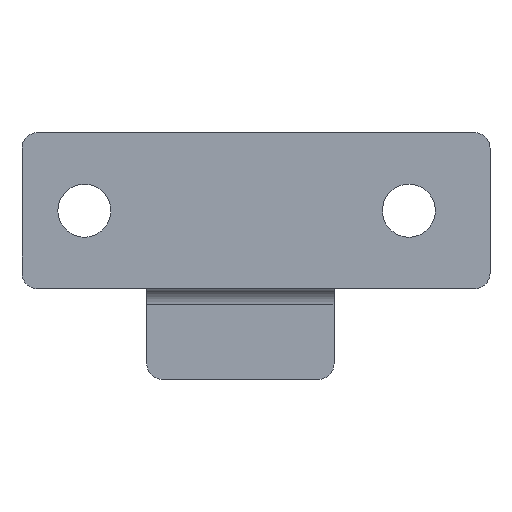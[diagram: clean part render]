
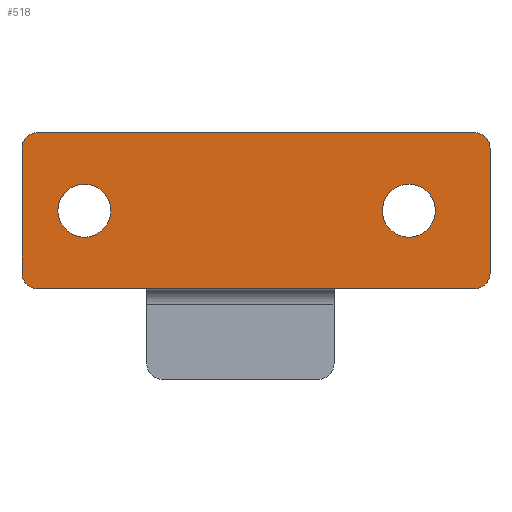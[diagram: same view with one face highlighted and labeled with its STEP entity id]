
A CAD part, top view. The second image highlights one B-rep face of the part: STEP entity #518.
In plain terms, the highlighted planar face has unit normal (0, 0, 1).
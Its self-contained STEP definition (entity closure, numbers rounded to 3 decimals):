
#122=DIRECTION('',(1.,0.,0.));
#123=VECTOR('',#122,28.);
#124=CARTESIAN_POINT('',(-29.,-50.,4.));
#125=LINE('',#124,#123);
#134=DIRECTION('',(0.,-1.,0.));
#135=VECTOR('',#134,8.);
#136=CARTESIAN_POINT('',(-30.,-41.,4.));
#137=LINE('',#136,#135);
#146=CARTESIAN_POINT('',(-29.,-41.,4.));
#147=DIRECTION('',(0.,0.,-1.));
#148=DIRECTION('',(-1.,0.,0.));
#149=AXIS2_PLACEMENT_3D('',#146,#147,#148);
#151=CARTESIAN_POINT('',(-1.,-41.,4.));
#152=DIRECTION('',(0.,0.,-1.));
#153=DIRECTION('',(0.,1.,0.));
#154=AXIS2_PLACEMENT_3D('',#151,#152,#153);
#156=CARTESIAN_POINT('',(-1.,-49.,4.));
#157=DIRECTION('',(0.,0.,-1.));
#158=DIRECTION('',(1.,0.,0.));
#159=AXIS2_PLACEMENT_3D('',#156,#157,#158);
#161=CARTESIAN_POINT('',(-29.,-49.,4.));
#162=DIRECTION('',(0.,0.,-1.));
#163=DIRECTION('',(0.,-1.,0.));
#164=AXIS2_PLACEMENT_3D('',#161,#162,#163);
#166=CARTESIAN_POINT('',(-26.,-45.,4.));
#167=DIRECTION('',(0.,0.,1.));
#168=DIRECTION('',(0.,1.,0.));
#169=AXIS2_PLACEMENT_3D('',#166,#167,#168);
#171=CARTESIAN_POINT('',(-26.,-45.,4.));
#172=DIRECTION('',(0.,0.,1.));
#173=DIRECTION('',(0.,-1.,0.));
#174=AXIS2_PLACEMENT_3D('',#171,#172,#173);
#176=CARTESIAN_POINT('',(-5.2,-45.,4.));
#177=DIRECTION('',(0.,0.,1.));
#178=DIRECTION('',(0.,1.,0.));
#179=AXIS2_PLACEMENT_3D('',#176,#177,#178);
#181=CARTESIAN_POINT('',(-5.2,-45.,4.));
#182=DIRECTION('',(0.,0.,1.));
#183=DIRECTION('',(0.,-1.,0.));
#184=AXIS2_PLACEMENT_3D('',#181,#182,#183);
#186=DIRECTION('',(-1.,0.,0.));
#187=VECTOR('',#186,28.);
#188=CARTESIAN_POINT('',(-1.,-40.,4.));
#189=LINE('',#188,#187);
#198=DIRECTION('',(0.,1.,0.));
#199=VECTOR('',#198,8.);
#200=CARTESIAN_POINT('',(0.,-49.,4.));
#201=LINE('',#200,#199);
#287=CARTESIAN_POINT('',(-5.2,-46.7,4.));
#288=VERTEX_POINT('',#287);
#289=CARTESIAN_POINT('',(-5.2,-43.3,4.));
#290=VERTEX_POINT('',#289);
#291=CARTESIAN_POINT('',(-30.,-41.,4.));
#292=CARTESIAN_POINT('',(-29.,-40.,4.));
#293=VERTEX_POINT('',#291);
#294=VERTEX_POINT('',#292);
#295=CARTESIAN_POINT('',(-1.,-40.,4.));
#296=VERTEX_POINT('',#295);
#297=CARTESIAN_POINT('',(0.,-41.,4.));
#298=VERTEX_POINT('',#297);
#299=CARTESIAN_POINT('',(0.,-49.,4.));
#300=VERTEX_POINT('',#299);
#301=CARTESIAN_POINT('',(-1.,-50.,4.));
#302=VERTEX_POINT('',#301);
#303=CARTESIAN_POINT('',(-29.,-50.,4.));
#304=VERTEX_POINT('',#303);
#305=CARTESIAN_POINT('',(-30.,-49.,4.));
#306=VERTEX_POINT('',#305);
#307=CARTESIAN_POINT('',(-26.,-43.3,4.));
#308=CARTESIAN_POINT('',(-26.,-46.7,4.));
#309=VERTEX_POINT('',#307);
#310=VERTEX_POINT('',#308);
#487=CARTESIAN_POINT('',(0.,-40.,4.));
#488=DIRECTION('',(0.,0.,-1.));
#489=DIRECTION('',(1.,0.,0.));
#490=AXIS2_PLACEMENT_3D('',#487,#488,#489);
#491=PLANE('',#490);
#492=ORIENTED_EDGE('',*,*,#478,.T.);
#494=ORIENTED_EDGE('',*,*,#493,.F.);
#496=ORIENTED_EDGE('',*,*,#495,.T.);
#498=ORIENTED_EDGE('',*,*,#497,.F.);
#500=ORIENTED_EDGE('',*,*,#499,.T.);
#501=ORIENTED_EDGE('',*,*,#431,.F.);
#502=ORIENTED_EDGE('',*,*,#453,.T.);
#503=ORIENTED_EDGE('',*,*,#466,.F.);
#504=EDGE_LOOP('',(#492,#494,#496,#498,#500,#501,#502,#503));
#505=FACE_OUTER_BOUND('',#504,.F.);
#507=ORIENTED_EDGE('',*,*,#506,.T.);
#509=ORIENTED_EDGE('',*,*,#508,.T.);
#510=EDGE_LOOP('',(#507,#509));
#511=FACE_BOUND('',#510,.F.);
#513=ORIENTED_EDGE('',*,*,#512,.T.);
#515=ORIENTED_EDGE('',*,*,#514,.T.);
#516=EDGE_LOOP('',(#513,#515));
#517=FACE_BOUND('',#516,.F.);
#518=ADVANCED_FACE('',(#505,#511,#517),#491,.F.);
#150=CIRCLE('',#149,1.);
#155=CIRCLE('',#154,1.);
#160=CIRCLE('',#159,1.);
#165=CIRCLE('',#164,1.);
#170=CIRCLE('',#169,1.7);
#175=CIRCLE('',#174,1.7);
#180=CIRCLE('',#179,1.7);
#185=CIRCLE('',#184,1.7);
#431=EDGE_CURVE('',#304,#302,#125,.T.);
#453=EDGE_CURVE('',#304,#306,#165,.T.);
#466=EDGE_CURVE('',#293,#306,#137,.T.);
#478=EDGE_CURVE('',#293,#294,#150,.T.);
#493=EDGE_CURVE('',#296,#294,#189,.T.);
#495=EDGE_CURVE('',#296,#298,#155,.T.);
#497=EDGE_CURVE('',#300,#298,#201,.T.);
#499=EDGE_CURVE('',#300,#302,#160,.T.);
#506=EDGE_CURVE('',#309,#310,#170,.T.);
#508=EDGE_CURVE('',#310,#309,#175,.T.);
#512=EDGE_CURVE('',#290,#288,#180,.T.);
#514=EDGE_CURVE('',#288,#290,#185,.T.);
